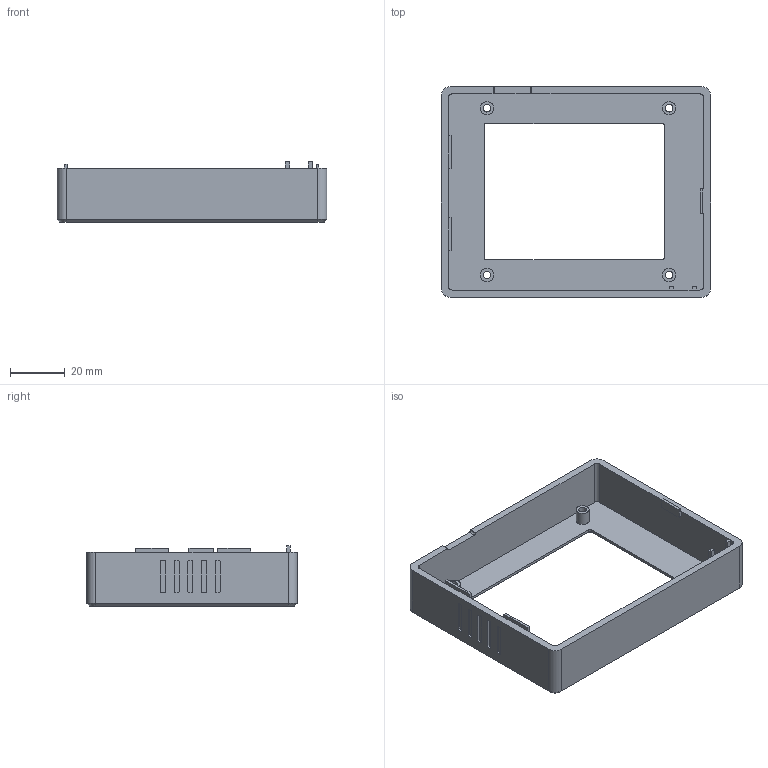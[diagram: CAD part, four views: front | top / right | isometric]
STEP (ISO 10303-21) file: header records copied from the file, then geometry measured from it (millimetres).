
FILE_DESCRIPTION(('Open CASCADE Model'),'2;1');
FILE_NAME('Open CASCADE Shape Model','2026-11-28T16:01:09',('Author'),( 'Open CASCADE'),'Open CASCADE STEP processor 8.0','build123d', 'Unknown');
FILE_SCHEMA(('AUTOMOTIVE_DESIGN { 1 0 10303 214 1 1 1 1 }'));
Length unit declared in the file: millimetre
Products named in the file (2): =>[0:1:1:2]; SOLID
Assembly tree (1 placements, depth 2):
  =>[0:1:1:2]
    SOLID
Bounding box: 98.4 x 76.8 x 22 mm (x, y, z)
Volume: 25812.1 mm3; surface area: 21957.4 mm2
Topology: 1 solids, 1 shells, 139 faces, 356 edges, 228 vertices
Faces by surface type: plane 81, cylinder 42, bspline 8, cone 8
Full cylindrical faces by diameter (mm): 2.8 x4, 4.8 x4
Entity records: 9044 total; most frequent: CARTESIAN_POINT 1991, DIRECTION 1264, LINE 750, VECTOR 750, ORIENTED_EDGE 712, PCURVE 712, DEFINITIONAL_REPRESENTATION 712, EDGE_CURVE 356
